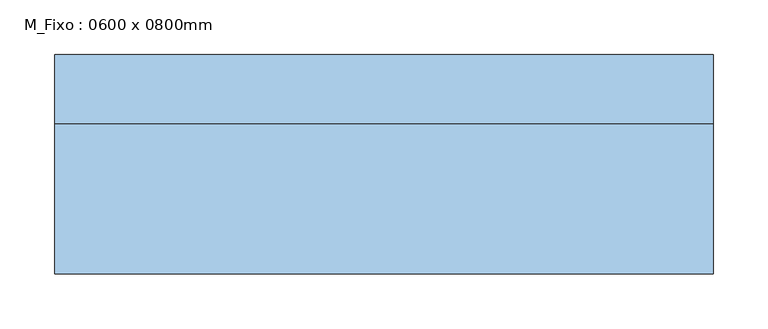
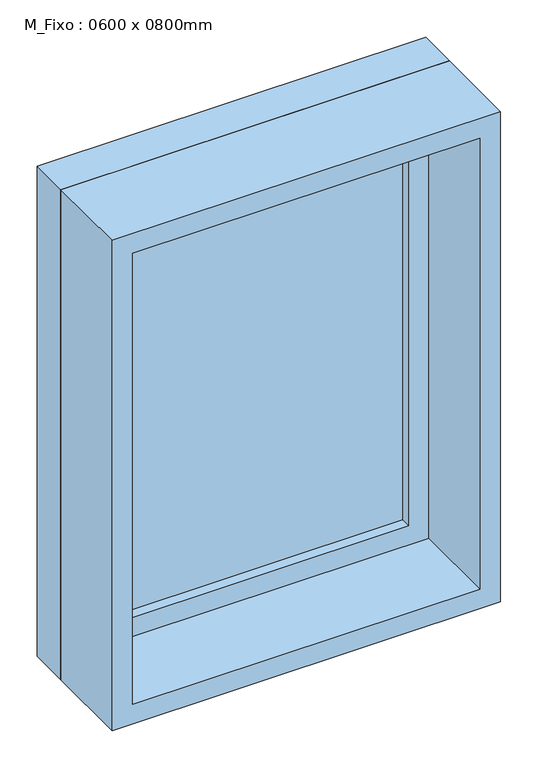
"""IFC4 building model written with IfcOpenShell, lengths in millimetres: window geometry, M_Fixo : 0600 x 0800mm."""

from ifc_helpers import new_model, si_unit, frame, origin, place, context, project, spatial, polyline, outline, extrude, source, transform, mapped, element, save


def m_fixo_0600_x_0800mm_ca2b4e53(model_context):
    return source(origin(), model_context, "Body", "SweptSolid", [
        extrude(outline(polyline([(-237.0, 78.0), (237.0, 78.0), (237.0, 66.0), (-237.0, 66.0), (-237.0, 78.0)])), frame((0.0, 0.0, 1663.0), z_axis=(0.0, 0.0, 1.0), x_axis=(1.0, 0.0, 0.0)), (0.0, 0.0, 1.0), 674.0),
        extrude(outline(polyline([(2381.0, -281.0), (1619.0, -281.0), (1619.0, 281.0), (2381.0, 281.0), (2381.0, -281.0)]), holes=[polyline([(2337.0, -237.0), (2337.0, 237.0), (1663.0, 237.0), (1663.0, -237.0), (2337.0, -237.0)])]), frame((0.0, 50.0, 0.0), z_axis=(0.0, 1.0, 0.0), x_axis=(0.0, 0.0, 1.0)), (0.0, 0.0, 1.0), 44.0),
        extrude(outline(polyline([(2400.0, -300.0), (1600.0, -300.0), (1600.0, 300.0), (2400.0, 300.0), (2400.0, -300.0)]), holes=[polyline([(2381.0, -281.0), (2381.0, 281.0), (1619.0, 281.0), (1619.0, -281.0), (2381.0, -281.0)])]), frame((0.0, 50.0, 0.0), z_axis=(0.0, 1.0, 0.0), x_axis=(0.0, 0.0, 1.0)), (0.0, 0.0, 1.0), 63.0),
        extrude(outline(polyline([(2400.0, -300.0), (1600.0, -300.0), (1600.0, 300.0), (2400.0, 300.0), (2400.0, -300.0)]), holes=[polyline([(2368.0, -268.0), (2368.0, 268.0), (1632.0, 268.0), (1632.0, -268.0), (2368.0, -268.0)])]), frame((0.0, -87.0, 0.0), z_axis=(0.0, 1.0, 0.0), x_axis=(0.0, 0.0, 1.0)), (0.0, 0.0, 1.0), 137.0),
    ])


if __name__ == "__main__":
    model = new_model("IFC4")
    model_context = context("Model", 3, world=origin())
    ifc_project = project(units=[si_unit("LENGTHUNIT", "METRE", prefix="MILLI")], contexts=[model_context])
    site = spatial("IfcSite", under=ifc_project)
    building = spatial("IfcBuilding", under=site)
    placement = place(None, origin())
    m_fixo_0600_x_0800mm_shape = m_fixo_0600_x_0800mm_ca2b4e53(model_context)
    element("IfcWindow", 1, ObjectType="M_Fixo : 0600 x 0800mm", at=placement, inside=building, context=model_context, shape_type="MappedRepresentation", body=[
        mapped(m_fixo_0600_x_0800mm_shape, transform((0.0, 0.0, 0.0), x_axis=(1.0, 0.0, 0.0), y_axis=(0.0, 1.0, 0.0), z_axis=(0.0, 0.0, 1.0))),
    ])
    save(model, "model.ifc")
